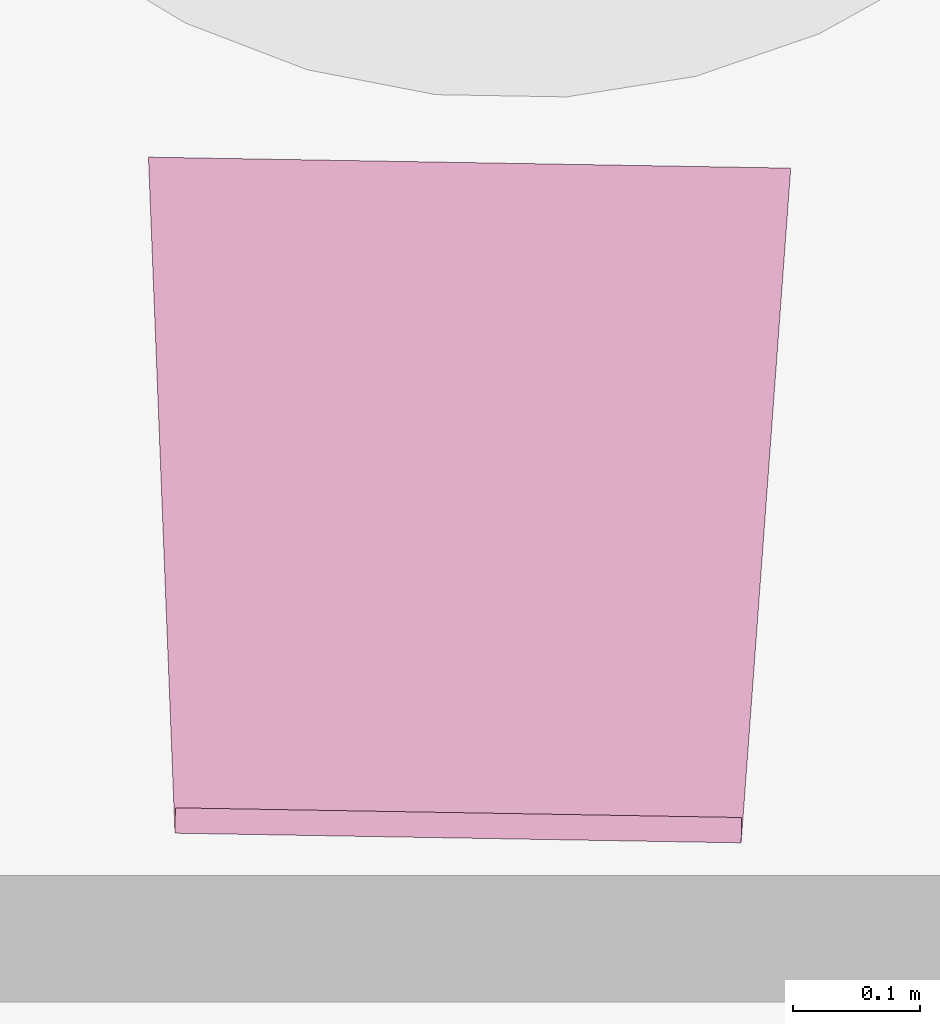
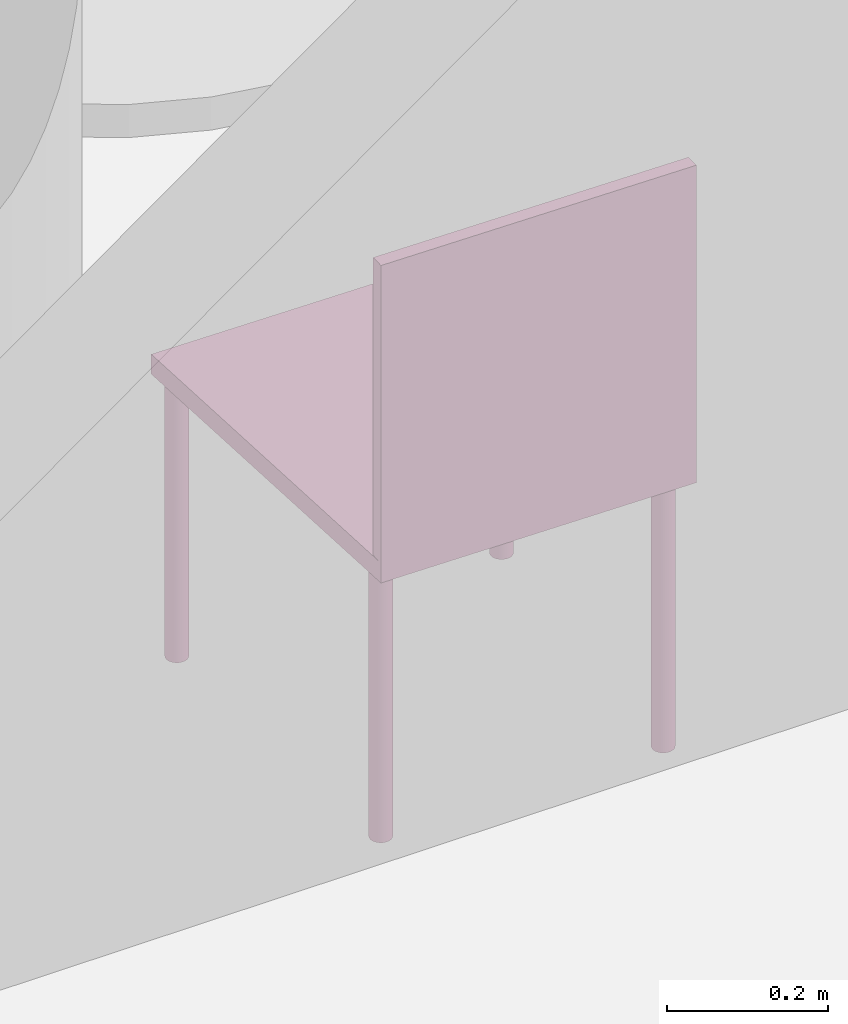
"""IFC4 building model written with IfcOpenShell, lengths in metres."""

from ifc_helpers import new_model, entity, si_unit, converted_unit, derived_unit, frame, origin, place, context, subcontext, project, spatial, faceted_brep, element, save


model = new_model("IFC4")

# Units and contexts
model_context = context("Model", 3, precision=1e-05, world=origin())
body_context = subcontext(model_context, "Body", "Model", "MODEL_VIEW")
ifc_project = project(units=[si_unit("LENGTHUNIT", "METRE"), si_unit("AREAUNIT", "SQUARE_METRE"), si_unit("VOLUMEUNIT", "CUBIC_METRE"), si_unit("MASSUNIT", "GRAM", prefix="KILO"), converted_unit("PLANEANGLEUNIT", "DEGREE", entity("IfcPlaneAngleMeasure", 0.0174532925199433), si_unit("PLANEANGLEUNIT", "RADIAN"), dimensions=[0, 0, 0, 0, 0, 0, 0]), derived_unit("THERMALTRANSMITTANCEUNIT", [(si_unit("POWERUNIT", "WATT"), 1), (si_unit("THERMODYNAMICTEMPERATUREUNIT", "KELVIN"), -1), (si_unit("LENGTHUNIT", "METRE"), -2)]), derived_unit("VOLUMETRICFLOWRATEUNIT", [(si_unit("LENGTHUNIT", "METRE"), 3), (converted_unit("TIMEUNIT", "hour", entity("IfcTimeMeasure", 3600.0), si_unit("TIMEUNIT", "SECOND"), dimensions=[0, 0, 1, 0, 0, 0, 0]), -1), (si_unit("LENGTHUNIT", "METRE"), -1)])], contexts=[model_context])

# Building, storeys
building_placement = place(None, origin())
building = spatial("IfcBuilding", under=ifc_project, at=building_placement, Name="HABITATGE PLURIFAMILIAR", CompositionType="ELEMENT")
storey_1_placement = place(building_placement, frame((0.0, 0.0, 9.26)))
storey_1 = spatial("IfcBuildingStorey", under=building, at=storey_1_placement, Name="PLANTA SEGONA", CompositionType="ELEMENT", Elevation=9.26)
storey_2_placement = place(storey_1_placement, frame((0.0, 0.0, 6.25)))
storey_2 = spatial("IfcBuildingStorey", under=storey_1, at=storey_2_placement, Name="NOU", CompositionType="PARTIAL")

# Furniture
furniture_placement = place(storey_2_placement, frame((401.575304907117, 23.545092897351, -6.3514820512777)))
element("IfcFurniture", 1, at=furniture_placement, inside=storey_2, Name="Cadira confident_P2", context=body_context, shape_type="Brep", body=[
    faceted_brep([(0.466853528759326, 0.507592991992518, 0.0), (0.467036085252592, 0.504995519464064, 0.0), (0.467666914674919, 0.502469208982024, 0.0), (0.468726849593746, 0.500090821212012, 0.0), (0.470183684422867, 0.49793262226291, 0.0), (0.471993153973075, 0.496060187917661, 0.0), (0.474100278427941, 0.49453041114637, 0.0), (0.476441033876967, 0.493389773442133, 0.0), (0.478944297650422, 0.492672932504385, 0.0), (0.481534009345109, 0.492401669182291, 0.0), (0.484131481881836, 0.492584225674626, 0.0), (0.486657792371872, 0.493215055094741, 0.0), (0.489036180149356, 0.494274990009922, 0.0), (0.491194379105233, 0.49573182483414, 0.0), (0.493066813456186, 0.497541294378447, 0.0), (0.494596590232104, 0.499648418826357, 0.0), (0.495737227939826, 0.501989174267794, 0.0), (0.49645406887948, 0.50449243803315, 0.0), (0.496725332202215, 0.507082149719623, 0.0), (0.496542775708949, 0.509679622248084, 0.0), (0.495911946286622, 0.512205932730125, 0.0), (0.494852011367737, 0.514584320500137, 0.0), (0.493395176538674, 0.516742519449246, 0.0), (0.491585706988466, 0.518614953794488, 0.0), (0.4894785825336, 0.520144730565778, 0.0), (0.487137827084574, 0.521285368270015, 0.0), (0.48463456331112, 0.522002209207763, 0.0), (0.482044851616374, 0.522273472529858, 0.0), (0.479447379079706, 0.52209091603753, 0.0), (0.476921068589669, 0.521460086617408, 0.0), (0.474542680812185, 0.520400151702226, 0.0), (0.472384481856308, 0.518943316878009, 0.0), (0.470512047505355, 0.517133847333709, 0.0), (0.468982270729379, 0.515026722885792, 0.0), (0.467841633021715, 0.512685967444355, 0.0), (0.467124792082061, 0.510182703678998, 0.0), (0.466853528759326, 0.507592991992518, 0.448281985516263), (0.467124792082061, 0.510182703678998, 0.448281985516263), (0.467841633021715, 0.512685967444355, 0.448281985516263), (0.468982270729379, 0.515026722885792, 0.448281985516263), (0.470512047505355, 0.517133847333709, 0.448281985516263), (0.472384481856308, 0.518943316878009, 0.448281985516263), (0.474542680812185, 0.520400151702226, 0.448281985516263), (0.476921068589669, 0.521460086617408, 0.448281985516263), (0.479447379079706, 0.52209091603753, 0.448281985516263), (0.482044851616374, 0.522273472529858, 0.448281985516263), (0.48463456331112, 0.522002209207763, 0.448281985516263), (0.487137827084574, 0.521285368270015, 0.448281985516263), (0.4894785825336, 0.520144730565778, 0.448281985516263), (0.491585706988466, 0.518614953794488, 0.448281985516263), (0.493395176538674, 0.516742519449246, 0.448281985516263), (0.494852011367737, 0.514584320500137, 0.448281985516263), (0.495911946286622, 0.512205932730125, 0.448281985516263), (0.496542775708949, 0.509679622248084, 0.448281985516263), (0.496725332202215, 0.507082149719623, 0.448281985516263), (0.49645406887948, 0.50449243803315, 0.448281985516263), (0.495737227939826, 0.501989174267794, 0.448281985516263), (0.494596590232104, 0.499648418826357, 0.448281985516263), (0.493066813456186, 0.497541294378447, 0.448281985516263), (0.491194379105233, 0.49573182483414, 0.448281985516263), (0.489036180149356, 0.494274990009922, 0.448281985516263), (0.486657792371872, 0.493215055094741, 0.448281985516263), (0.484131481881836, 0.492584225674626, 0.448281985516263), (0.481534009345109, 0.492401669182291, 0.448281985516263), (0.478944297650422, 0.492672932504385, 0.448281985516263), (0.476441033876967, 0.493389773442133, 0.448281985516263), (0.474100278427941, 0.49453041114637, 0.448281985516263), (0.471993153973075, 0.496060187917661, 0.448281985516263), (0.470183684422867, 0.49793262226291, 0.448281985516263), (0.468726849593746, 0.500090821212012, 0.448281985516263), (0.467666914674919, 0.502469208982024, 0.448281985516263), (0.467036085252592, 0.504995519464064, 0.448281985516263)], [[[0, 1, 2, 3, 4, 5, 6, 7, 8, 9, 10, 11, 12, 13, 14, 15, 16, 17, 18, 19, 20, 21, 22, 23, 24, 25, 26, 27, 28, 29, 30, 31, 32, 33, 34, 35]], [[36, 37, 38, 39, 40, 41, 42, 43, 44, 45, 46, 47, 48, 49, 50, 51, 52, 53, 54, 55, 56, 57, 58, 59, 60, 61, 62, 63, 64, 65, 66, 67, 68, 69, 70, 71]], [[1, 0, 36, 71]], [[2, 1, 71, 70]], [[3, 2, 70, 69]], [[4, 3, 69, 68]], [[5, 4, 68, 67]], [[6, 5, 67, 66]], [[7, 6, 66, 65]], [[8, 7, 65, 64]], [[9, 8, 64, 63]], [[10, 9, 63, 62]], [[11, 10, 62, 61]], [[12, 11, 61, 60]], [[13, 12, 60, 59]], [[14, 13, 59, 58]], [[15, 14, 58, 57]], [[16, 15, 57, 56]], [[17, 16, 56, 55]], [[18, 17, 55, 54]], [[19, 18, 54, 53]], [[20, 19, 53, 52]], [[21, 20, 52, 51]], [[22, 21, 51, 50]], [[23, 22, 50, 49]], [[24, 23, 49, 48]], [[25, 24, 48, 47]], [[26, 25, 47, 46]], [[27, 26, 46, 45]], [[28, 27, 45, 44]], [[29, 28, 44, 43]], [[30, 29, 43, 42]], [[31, 30, 42, 41]], [[32, 31, 41, 40]], [[33, 32, 40, 39]], [[34, 33, 39, 38]], [[35, 34, 38, 37]], [[0, 35, 37, 36]]], orient=[[False], [False], [False], [False], [False], [False], [False], [False], [False], [False], [False], [False], [False], [False], [False], [False], [False], [False], [False], [False], [False], [False], [False], [False], [False], [False], [False], [False], [False], [False], [False], [False], [False], [False], [False], [False], [False], [False]]),
    faceted_brep([(0.431313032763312, 0.0457261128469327, 0.0), (0.431495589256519, 0.0431286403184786, 0.0), (0.432126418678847, 0.0406023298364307, 0.0), (0.433186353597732, 0.0382239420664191, 0.0), (0.434643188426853, 0.0360657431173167, 0.0), (0.436452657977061, 0.0341933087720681, 0.0), (0.438559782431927, 0.0326635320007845, 0.0), (0.440900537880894, 0.0315228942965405, 0.0), (0.443403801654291, 0.0308060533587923, 0.0), (0.445993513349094, 0.0305347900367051, 0.0), (0.448590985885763, 0.0307173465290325, 0.0), (0.451117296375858, 0.0313481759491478, 0.0), (0.453495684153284, 0.0324081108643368, 0.0), (0.45565388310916, 0.0338649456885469, 0.0), (0.457526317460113, 0.0356744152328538, 0.0), (0.45905609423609, 0.0377815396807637, 0.0), (0.460196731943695, 0.0401222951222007, 0.0), (0.460913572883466, 0.0426255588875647, 0.0), (0.461184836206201, 0.0452152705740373, 0.0), (0.461002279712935, 0.0478127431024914, 0.0), (0.46037145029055, 0.0503390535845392, 0.0), (0.459311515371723, 0.0527174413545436, 0.0), (0.457854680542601, 0.0548756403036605, 0.0), (0.456045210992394, 0.0567480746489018, 0.0), (0.453938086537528, 0.0582778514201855, 0.0), (0.45159733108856, 0.0594184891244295, 0.0), (0.449094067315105, 0.0601353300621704, 0.0), (0.44650435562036, 0.0604065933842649, 0.0), (0.443906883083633, 0.0602240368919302, 0.0), (0.441380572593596, 0.0595932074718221, 0.0), (0.43900218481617, 0.0585332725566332, 0.0), (0.436843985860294, 0.0570764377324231, 0.0), (0.434971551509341, 0.0552669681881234, 0.0), (0.433441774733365, 0.053159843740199, 0.0), (0.432301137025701, 0.0508190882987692, 0.0), (0.431584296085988, 0.0483158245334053, 0.0), (0.431313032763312, 0.0457261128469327, 0.448281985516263), (0.431584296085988, 0.0483158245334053, 0.448281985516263), (0.432301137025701, 0.0508190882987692, 0.448281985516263), (0.433441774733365, 0.053159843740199, 0.448281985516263), (0.434971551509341, 0.0552669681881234, 0.448281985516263), (0.436843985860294, 0.0570764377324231, 0.448281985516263), (0.43900218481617, 0.0585332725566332, 0.448281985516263), (0.441380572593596, 0.0595932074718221, 0.448281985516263), (0.443906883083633, 0.0602240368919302, 0.448281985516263), (0.44650435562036, 0.0604065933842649, 0.448281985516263), (0.449094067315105, 0.0601353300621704, 0.448281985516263), (0.45159733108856, 0.0594184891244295, 0.448281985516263), (0.453938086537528, 0.0582778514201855, 0.448281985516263), (0.456045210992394, 0.0567480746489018, 0.448281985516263), (0.457854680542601, 0.0548756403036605, 0.448281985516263), (0.459311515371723, 0.0527174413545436, 0.448281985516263), (0.46037145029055, 0.0503390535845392, 0.448281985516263), (0.461002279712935, 0.0478127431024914, 0.448281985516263), (0.461184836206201, 0.0452152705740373, 0.448281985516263), (0.460913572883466, 0.0426255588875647, 0.448281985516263), (0.460196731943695, 0.0401222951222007, 0.448281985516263), (0.45905609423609, 0.0377815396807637, 0.448281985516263), (0.457526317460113, 0.0356744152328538, 0.448281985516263), (0.45565388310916, 0.0338649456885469, 0.448281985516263), (0.453495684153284, 0.0324081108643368, 0.448281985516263), (0.451117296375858, 0.0313481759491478, 0.448281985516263), (0.448590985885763, 0.0307173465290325, 0.448281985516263), (0.445993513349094, 0.0305347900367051, 0.448281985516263), (0.443403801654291, 0.0308060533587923, 0.448281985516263), (0.440900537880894, 0.0315228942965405, 0.448281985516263), (0.438559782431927, 0.0326635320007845, 0.448281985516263), (0.436452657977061, 0.0341933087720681, 0.448281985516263), (0.434643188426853, 0.0360657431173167, 0.448281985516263), (0.433186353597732, 0.0382239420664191, 0.448281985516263), (0.432126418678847, 0.0406023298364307, 0.448281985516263), (0.431495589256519, 0.0431286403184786, 0.448281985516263)], [[[0, 1, 2, 3, 4, 5, 6, 7, 8, 9, 10, 11, 12, 13, 14, 15, 16, 17, 18, 19, 20, 21, 22, 23, 24, 25, 26, 27, 28, 29, 30, 31, 32, 33, 34, 35]], [[36, 37, 38, 39, 40, 41, 42, 43, 44, 45, 46, 47, 48, 49, 50, 51, 52, 53, 54, 55, 56, 57, 58, 59, 60, 61, 62, 63, 64, 65, 66, 67, 68, 69, 70, 71]], [[1, 0, 36, 71]], [[2, 1, 71, 70]], [[3, 2, 70, 69]], [[4, 3, 69, 68]], [[5, 4, 68, 67]], [[6, 5, 67, 66]], [[7, 6, 66, 65]], [[8, 7, 65, 64]], [[9, 8, 64, 63]], [[10, 9, 63, 62]], [[11, 10, 62, 61]], [[12, 11, 61, 60]], [[13, 12, 60, 59]], [[14, 13, 59, 58]], [[15, 14, 58, 57]], [[16, 15, 57, 56]], [[17, 16, 56, 55]], [[18, 17, 55, 54]], [[19, 18, 54, 53]], [[20, 19, 53, 52]], [[21, 20, 52, 51]], [[22, 21, 51, 50]], [[23, 22, 50, 49]], [[24, 23, 49, 48]], [[25, 24, 48, 47]], [[26, 25, 47, 46]], [[27, 26, 46, 45]], [[28, 27, 45, 44]], [[29, 28, 44, 43]], [[30, 29, 43, 42]], [[31, 30, 42, 41]], [[32, 31, 41, 40]], [[33, 32, 40, 39]], [[34, 33, 39, 38]], [[35, 34, 38, 37]], [[0, 35, 37, 36]]], orient=[[False], [False], [False], [False], [False], [False], [False], [False], [False], [False], [False], [False], [False], [False], [False], [False], [False], [False], [False], [False], [False], [False], [False], [False], [False], [False], [False], [False], [False], [False], [False], [False], [False], [False], [False], [False], [False], [False]]),
    faceted_brep([(0.00692077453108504, 0.515458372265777, 0.0), (0.00710333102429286, 0.512860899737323, 0.0), (0.00773416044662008, 0.510334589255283, 0.0), (0.0087940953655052, 0.507956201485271, 0.0), (0.0102509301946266, 0.505798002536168, 0.0), (0.0120603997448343, 0.50392556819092, 0.0), (0.0141675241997, 0.502395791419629, 0.0), (0.0165082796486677, 0.501255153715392, 0.0), (0.0190115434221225, 0.500538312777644, 0.0), (0.0216012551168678, 0.50026704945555, 0.0), (0.0241987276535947, 0.500449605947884, 0.0), (0.0267250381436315, 0.501080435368, 0.0), (0.0291034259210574, 0.502140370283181, 0.0), (0.0312616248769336, 0.503597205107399, 0.0), (0.0331340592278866, 0.505406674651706, 0.0), (0.034663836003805, 0.507513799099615, 0.0), (0.0358044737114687, 0.509854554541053, 0.0), (0.0365213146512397, 0.512357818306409, 0.0), (0.0367925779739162, 0.514947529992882, 0.0), (0.0366100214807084, 0.517545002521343, 0.0), (0.035979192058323, 0.520071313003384, 0.0), (0.0349192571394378, 0.522449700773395, 0.0), (0.0334624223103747, 0.524607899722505, 0.0), (0.031652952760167, 0.526480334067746, 0.0), (0.0295458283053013, 0.528010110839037, 0.0), (0.0272050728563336, 0.529150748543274, 0.0), (0.0247018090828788, 0.529867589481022, 0.0), (0.0221120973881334, 0.530138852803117, 0.0), (0.0195146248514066, 0.529956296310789, 0.0), (0.0169883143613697, 0.529325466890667, 0.0), (0.0146099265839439, 0.528265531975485, 0.0), (0.0124517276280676, 0.526808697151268, 0.0), (0.0105792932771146, 0.524999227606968, 0.0), (0.00904951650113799, 0.522892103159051, 0.0), (0.00790887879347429, 0.520551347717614, 0.0), (0.00719203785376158, 0.518048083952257, 0.0), (0.00692077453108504, 0.515458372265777, 0.448281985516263), (0.00719203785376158, 0.518048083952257, 0.448281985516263), (0.00790887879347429, 0.520551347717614, 0.448281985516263), (0.00904951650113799, 0.522892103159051, 0.448281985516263), (0.0105792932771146, 0.524999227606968, 0.448281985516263), (0.0124517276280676, 0.526808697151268, 0.448281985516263), (0.0146099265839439, 0.528265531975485, 0.448281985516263), (0.0169883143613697, 0.529325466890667, 0.448281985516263), (0.0195146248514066, 0.529956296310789, 0.448281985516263), (0.0221120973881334, 0.530138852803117, 0.448281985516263), (0.0247018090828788, 0.529867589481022, 0.448281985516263), (0.0272050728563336, 0.529150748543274, 0.448281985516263), (0.0295458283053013, 0.528010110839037, 0.448281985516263), (0.031652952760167, 0.526480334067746, 0.448281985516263), (0.0334624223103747, 0.524607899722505, 0.448281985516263), (0.0349192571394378, 0.522449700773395, 0.448281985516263), (0.035979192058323, 0.520071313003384, 0.448281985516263), (0.0366100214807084, 0.517545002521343, 0.448281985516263), (0.0367925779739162, 0.514947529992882, 0.448281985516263), (0.0365213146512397, 0.512357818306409, 0.448281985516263), (0.0358044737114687, 0.509854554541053, 0.448281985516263), (0.034663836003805, 0.507513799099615, 0.448281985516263), (0.0331340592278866, 0.505406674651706, 0.448281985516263), (0.0312616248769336, 0.503597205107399, 0.448281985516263), (0.0291034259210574, 0.502140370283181, 0.448281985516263), (0.0267250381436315, 0.501080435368, 0.448281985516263), (0.0241987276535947, 0.500449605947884, 0.448281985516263), (0.0216012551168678, 0.50026704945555, 0.448281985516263), (0.0190115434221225, 0.500538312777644, 0.448281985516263), (0.0165082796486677, 0.501255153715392, 0.448281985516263), (0.0141675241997, 0.502395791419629, 0.448281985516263), (0.0120603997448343, 0.50392556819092, 0.448281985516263), (0.0102509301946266, 0.505798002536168, 0.448281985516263), (0.0087940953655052, 0.507956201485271, 0.448281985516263), (0.00773416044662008, 0.510334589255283, 0.448281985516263), (0.00710333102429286, 0.512860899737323, 0.448281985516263)], [[[0, 1, 2, 3, 4, 5, 6, 7, 8, 9, 10, 11, 12, 13, 14, 15, 16, 17, 18, 19, 20, 21, 22, 23, 24, 25, 26, 27, 28, 29, 30, 31, 32, 33, 34, 35]], [[36, 37, 38, 39, 40, 41, 42, 43, 44, 45, 46, 47, 48, 49, 50, 51, 52, 53, 54, 55, 56, 57, 58, 59, 60, 61, 62, 63, 64, 65, 66, 67, 68, 69, 70, 71]], [[1, 0, 36, 71]], [[2, 1, 71, 70]], [[3, 2, 70, 69]], [[4, 3, 69, 68]], [[5, 4, 68, 67]], [[6, 5, 67, 66]], [[7, 6, 66, 65]], [[8, 7, 65, 64]], [[9, 8, 64, 63]], [[10, 9, 63, 62]], [[11, 10, 62, 61]], [[12, 11, 61, 60]], [[13, 12, 60, 59]], [[14, 13, 59, 58]], [[15, 14, 58, 57]], [[16, 15, 57, 56]], [[17, 16, 56, 55]], [[18, 17, 55, 54]], [[19, 18, 54, 53]], [[20, 19, 53, 52]], [[21, 20, 52, 51]], [[22, 21, 51, 50]], [[23, 22, 50, 49]], [[24, 23, 49, 48]], [[25, 24, 48, 47]], [[26, 25, 47, 46]], [[27, 26, 46, 45]], [[28, 27, 45, 44]], [[29, 28, 44, 43]], [[30, 29, 43, 42]], [[31, 30, 42, 41]], [[32, 31, 41, 40]], [[33, 32, 40, 39]], [[34, 33, 39, 38]], [[35, 34, 38, 37]], [[0, 35, 37, 36]]], orient=[[False], [False], [False], [False], [False], [False], [False], [False], [False], [False], [False], [False], [False], [False], [False], [False], [False], [False], [False], [False], [False], [False], [False], [False], [False], [False], [False], [False], [False], [False], [False], [False], [False], [False], [False], [False], [False], [False]]),
    faceted_brep([(0.0313715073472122, 0.0525655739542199, 0.0), (0.0315540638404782, 0.0499681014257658, 0.0), (0.0321848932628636, 0.0474417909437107, 0.0), (0.0332448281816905, 0.045063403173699, 0.0), (0.0347016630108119, 0.0429052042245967, 0.0), (0.0365111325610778, 0.0410327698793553, 0.0), (0.0386182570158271, 0.0395029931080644, 0.0), (0.0409590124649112, 0.0383623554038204, 0.0), (0.0434622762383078, 0.0376455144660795, 0.0), (0.0460519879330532, 0.037374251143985, 0.0), (0.04864946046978, 0.0375568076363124, 0.0), (0.0511757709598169, 0.0381876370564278, 0.0), (0.0535541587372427, 0.0392475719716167, 0.0), (0.0557123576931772, 0.0407044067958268, 0.0), (0.0575847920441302, 0.0425138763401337, 0.0), (0.0591145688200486, 0.0446210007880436, 0.0), (0.0602552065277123, 0.0469617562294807, 0.0), (0.060972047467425, 0.0494650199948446, 0.0), (0.0612433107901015, 0.0520547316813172, 0.0), (0.0610607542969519, 0.0546522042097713, 0.0), (0.0604299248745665, 0.0571785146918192, 0.0), (0.0593699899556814, 0.0595569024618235, 0.0), (0.05791315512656, 0.0617151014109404, 0.0), (0.0561036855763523, 0.0635875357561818, 0.0), (0.0539965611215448, 0.0651173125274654, 0.0), (0.0516558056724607, 0.0662579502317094, 0.0), (0.0491525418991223, 0.0669747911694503, 0.0), (0.046562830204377, 0.0672460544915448, 0.0), (0.0439653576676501, 0.0670634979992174, 0.0), (0.041439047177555, 0.066432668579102, 0.0), (0.0390606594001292, 0.0653727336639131, 0.0), (0.0369024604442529, 0.0639158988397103, 0.0), (0.0350300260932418, 0.0621064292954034, 0.0), (0.0335002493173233, 0.0599993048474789, 0.0), (0.0323596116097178, 0.0576585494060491, 0.0), (0.0316427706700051, 0.0551552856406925, 0.0), (0.0313715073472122, 0.0525655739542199, 0.448281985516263), (0.0316427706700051, 0.0551552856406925, 0.448281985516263), (0.0323596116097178, 0.0576585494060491, 0.448281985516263), (0.0335002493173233, 0.0599993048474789, 0.448281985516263), (0.0350300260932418, 0.0621064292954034, 0.448281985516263), (0.0369024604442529, 0.0639158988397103, 0.448281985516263), (0.0390606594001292, 0.0653727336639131, 0.448281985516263), (0.041439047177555, 0.066432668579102, 0.448281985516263), (0.0439653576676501, 0.0670634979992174, 0.448281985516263), (0.046562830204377, 0.0672460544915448, 0.448281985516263), (0.0491525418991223, 0.0669747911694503, 0.448281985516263), (0.0516558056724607, 0.0662579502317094, 0.448281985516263), (0.0539965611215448, 0.0651173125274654, 0.448281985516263), (0.0561036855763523, 0.0635875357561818, 0.448281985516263), (0.05791315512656, 0.0617151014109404, 0.448281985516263), (0.0593699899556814, 0.0595569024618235, 0.448281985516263), (0.0604299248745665, 0.0571785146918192, 0.448281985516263), (0.0610607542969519, 0.0546522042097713, 0.448281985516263), (0.0612433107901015, 0.0520547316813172, 0.448281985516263), (0.060972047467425, 0.0494650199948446, 0.448281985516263), (0.0602552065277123, 0.0469617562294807, 0.448281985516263), (0.0591145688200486, 0.0446210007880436, 0.448281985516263), (0.0575847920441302, 0.0425138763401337, 0.448281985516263), (0.0557123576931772, 0.0407044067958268, 0.448281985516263), (0.0535541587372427, 0.0392475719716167, 0.448281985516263), (0.0511757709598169, 0.0381876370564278, 0.448281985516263), (0.04864946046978, 0.0375568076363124, 0.448281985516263), (0.0460519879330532, 0.037374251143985, 0.448281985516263), (0.0434622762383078, 0.0376455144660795, 0.448281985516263), (0.0409590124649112, 0.0383623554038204, 0.448281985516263), (0.0386182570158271, 0.0395029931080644, 0.448281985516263), (0.0365111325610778, 0.0410327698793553, 0.448281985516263), (0.0347016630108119, 0.0429052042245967, 0.448281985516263), (0.0332448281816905, 0.045063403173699, 0.448281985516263), (0.0321848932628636, 0.0474417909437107, 0.448281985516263), (0.0315540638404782, 0.0499681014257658, 0.448281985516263)], [[[0, 1, 2, 3, 4, 5, 6, 7, 8, 9, 10, 11, 12, 13, 14, 15, 16, 17, 18, 19, 20, 21, 22, 23, 24, 25, 26, 27, 28, 29, 30, 31, 32, 33, 34, 35]], [[36, 37, 38, 39, 40, 41, 42, 43, 44, 45, 46, 47, 48, 49, 50, 51, 52, 53, 54, 55, 56, 57, 58, 59, 60, 61, 62, 63, 64, 65, 66, 67, 68, 69, 70, 71]], [[1, 0, 36, 71]], [[2, 1, 71, 70]], [[3, 2, 70, 69]], [[4, 3, 69, 68]], [[5, 4, 68, 67]], [[6, 5, 67, 66]], [[7, 6, 66, 65]], [[8, 7, 65, 64]], [[9, 8, 64, 63]], [[10, 9, 63, 62]], [[11, 10, 62, 61]], [[12, 11, 61, 60]], [[13, 12, 60, 59]], [[14, 13, 59, 58]], [[15, 14, 58, 57]], [[16, 15, 57, 56]], [[17, 16, 56, 55]], [[18, 17, 55, 54]], [[19, 18, 54, 53]], [[20, 19, 53, 52]], [[21, 20, 52, 51]], [[22, 21, 51, 50]], [[23, 22, 50, 49]], [[24, 23, 49, 48]], [[25, 24, 48, 47]], [[26, 25, 47, 46]], [[27, 26, 46, 45]], [[28, 27, 45, 44]], [[29, 28, 44, 43]], [[30, 29, 43, 42]], [[31, 30, 42, 41]], [[32, 31, 41, 40]], [[33, 32, 40, 39]], [[34, 33, 39, 38]], [[35, 34, 38, 37]], [[0, 35, 37, 36]]], orient=[[False], [False], [False], [False], [False], [False], [False], [False], [False], [False], [False], [False], [False], [False], [False], [False], [False], [False], [False], [False], [False], [False], [False], [False], [False], [False], [False], [False], [False], [False], [False], [False], [False], [False], [False], [False], [False], [False]]),
    faceted_brep([(0.0208887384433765, 0.00763480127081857, 0.418281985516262), (0.467338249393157, 0.0, 0.418281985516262), (0.506440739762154, 0.532016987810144, 0.418281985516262), (0.0, 0.540677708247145, 0.418281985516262), (0.0, 0.540677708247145, 0.448281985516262), (0.506440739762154, 0.532016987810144, 0.448281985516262), (0.467338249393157, 0.0, 0.448281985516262), (0.0208887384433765, 0.00763480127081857, 0.448281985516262)], [[[0, 1, 2, 3]], [[4, 5, 6, 7]], [[3, 4, 7, 0]], [[2, 5, 4, 3]], [[1, 6, 5, 2]], [[0, 7, 6, 1]]], orient=[[False], [False], [False], [False], [False], [False]]),
    faceted_brep([(0.0212307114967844, 0.0276318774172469, 0.448281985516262), (0.0208887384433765, 0.00763480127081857, 0.448281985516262), (0.467338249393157, 0.0, 0.448281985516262), (0.467680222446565, 0.0199970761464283, 0.448281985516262), (0.467680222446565, 0.0199970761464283, 0.898281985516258), (0.467338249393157, 0.0, 0.898281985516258), (0.0208887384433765, 0.00763480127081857, 0.898281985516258), (0.0212307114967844, 0.0276318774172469, 0.898281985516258)], [[[0, 1, 2, 3]], [[4, 5, 6, 7]], [[3, 4, 7, 0]], [[2, 5, 4, 3]], [[1, 6, 5, 2]], [[0, 7, 6, 1]]], orient=[[False], [False], [False], [False], [False], [False]]),
])

save(model, "model.ifc")
